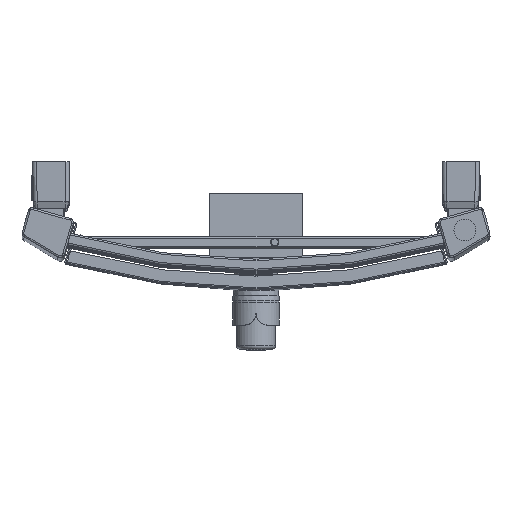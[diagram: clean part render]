
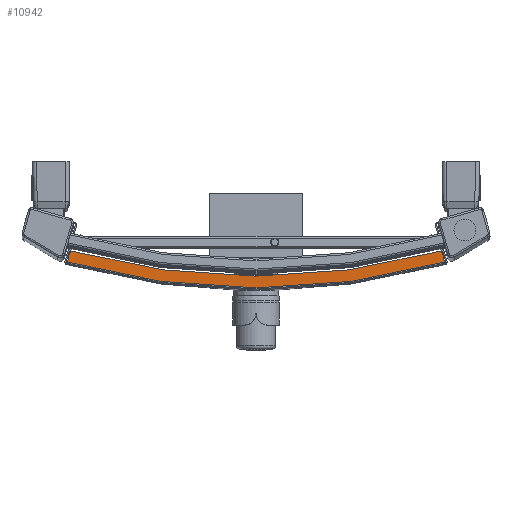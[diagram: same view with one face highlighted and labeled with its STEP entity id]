
A CAD part, top view. The second image highlights one B-rep face of the part: STEP entity #10942.
In plain terms, the highlighted planar face has unit normal (0, 0, 1).
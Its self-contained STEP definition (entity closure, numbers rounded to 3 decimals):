
#10772=CARTESIAN_POINT('',(156.626,-19.887,144.));
#10773=VERTEX_POINT('',#10772);
#10774=CARTESIAN_POINT('',(159.083,-21.279,144.));
#10775=VERTEX_POINT('',#10774);
#10776=CARTESIAN_POINT('',(157.156,-21.815,144.));
#10777=DIRECTION('',(0.,0.,-1.0));
#10778=DIRECTION('',(0.493,0.87,0.));
#10779=AXIS2_PLACEMENT_3D('',#10776,#10777,#10778);
#10780=CIRCLE('',#10779,2.0);
#10781=EDGE_CURVE('',#10773,#10775,#10780,.T.);
#10824=CARTESIAN_POINT('',(-156.626,-19.887,144.));
#10825=VERTEX_POINT('',#10824);
#10832=CARTESIAN_POINT('',(0.,549.617,144.));
#10833=DIRECTION('',(0.,0.,1.0));
#10834=DIRECTION('',(0.268,0.963,0.));
#10835=AXIS2_PLACEMENT_3D('',#10832,#10833,#10834);
#10836=CIRCLE('',#10835,590.649);
#10837=EDGE_CURVE('',#10825,#10773,#10836,.T.);
#10889=CARTESIAN_POINT('',(-159.083,-21.279,144.));
#10890=VERTEX_POINT('',#10889);
#10891=CARTESIAN_POINT('',(-157.156,-21.815,144.));
#10892=DIRECTION('',(0.,0.,-1.0));
#10893=DIRECTION('',(-0.493,0.87,0.));
#10894=AXIS2_PLACEMENT_3D('',#10891,#10892,#10893);
#10895=CIRCLE('',#10894,2.0);
#10896=EDGE_CURVE('',#10890,#10825,#10895,.T.);
#10909=CARTESIAN_POINT('',(0.,-43.637,144.));
#10910=DIRECTION('',(0.0,0.0,-1.0));
#10911=DIRECTION('',(0.276,0.961,0.0));
#10912=AXIS2_PLACEMENT_3D('',#10909,#10910,#10911);
#10913=PLANE('',#10912);
#10914=ORIENTED_EDGE('',*,*,#10781,.F.);
#10915=ORIENTED_EDGE('',*,*,#10837,.F.);
#10916=ORIENTED_EDGE('',*,*,#10896,.F.);
#10917=CARTESIAN_POINT('',(-161.231,-28.988,144.));
#10918=VERTEX_POINT('',#10917);
#10919=CARTESIAN_POINT('',(-161.231,-28.988,144.));
#10920=DIRECTION('',(0.268,0.963,0.));
#10921=VECTOR('',#10920,8.003);
#10922=LINE('',#10919,#10921);
#10923=EDGE_CURVE('',#10918,#10890,#10922,.T.);
#10924=ORIENTED_EDGE('',*,*,#10923,.F.);
#10925=CARTESIAN_POINT('',(161.231,-28.988,144.));
#10926=VERTEX_POINT('',#10925);
#10927=CARTESIAN_POINT('',(0.,549.617,144.));
#10928=DIRECTION('',(0.0,0.0,-1.0));
#10929=DIRECTION('',(0.0,-1.0,0.0));
#10930=AXIS2_PLACEMENT_3D('',#10927,#10928,#10929);
#10931=CIRCLE('',#10930,600.649);
#10932=EDGE_CURVE('',#10926,#10918,#10931,.T.);
#10933=ORIENTED_EDGE('',*,*,#10932,.F.);
#10934=CARTESIAN_POINT('',(159.083,-21.279,144.));
#10935=DIRECTION('',(0.268,-0.963,0.));
#10936=VECTOR('',#10935,8.003);
#10937=LINE('',#10934,#10936);
#10938=EDGE_CURVE('',#10775,#10926,#10937,.T.);
#10939=ORIENTED_EDGE('',*,*,#10938,.F.);
#10940=EDGE_LOOP('',(#10914,#10915,#10916,#10924,#10933,#10939));
#10941=FACE_OUTER_BOUND('',#10940,.T.);
#10942=ADVANCED_FACE('',(#10941),#10913,.F.);
